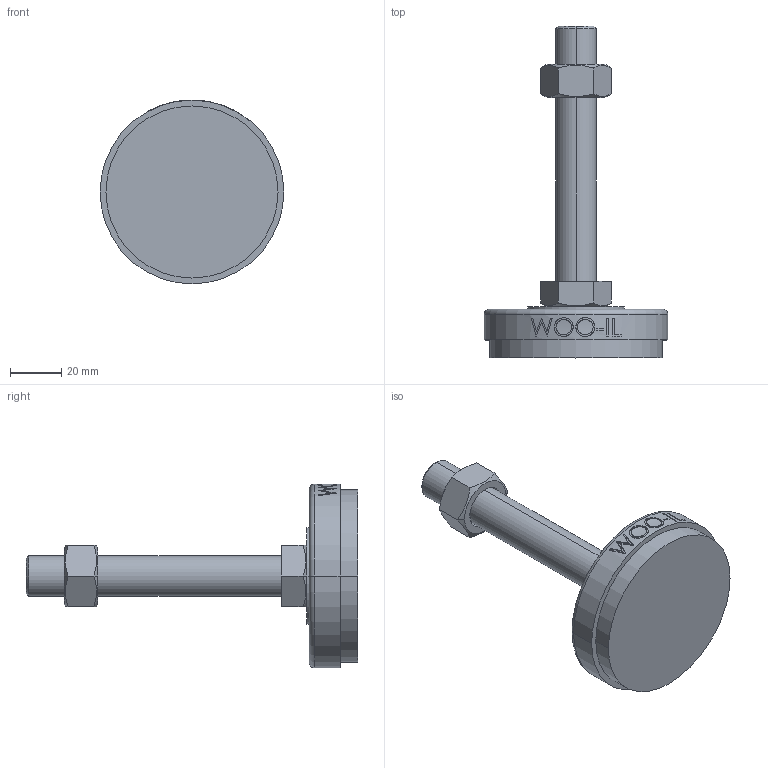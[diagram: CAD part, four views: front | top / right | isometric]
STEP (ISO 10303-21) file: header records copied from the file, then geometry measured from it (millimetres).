
FILE_DESCRIPTION (( 'STEP AP214' ), '1' );
FILE_NAME ('NS72-M16-100.step', '2021-01-11T05:47:18', ( '' ), ( '' ), 'SwSTEP 2.0', 'SolidWorks 2019', '' );
FILE_SCHEMA (( 'AUTOMOTIVE_DESIGN' ));
Length unit declared in the file: millimetre
Products named in the file (2): NS72-M16-100
Bounding box: 72 x 130 x 72 mm (x, y, z)
Volume: 103569.4 mm3; surface area: 21283.1 mm2
Topology: 3 solids, 3 shells, 96 faces, 223 edges, 144 vertices
Faces by surface type: plane 48, cylinder 18, bspline 16, cone 12, torus 2
Entity records: 4262 total; most frequent: CARTESIAN_POINT 2137, ORIENTED_EDGE 446, DIRECTION 381, EDGE_CURVE 223, VERTEX_POINT 144, AXIS2_PLACEMENT_3D 142, EDGE_LOOP 109, LINE 97
